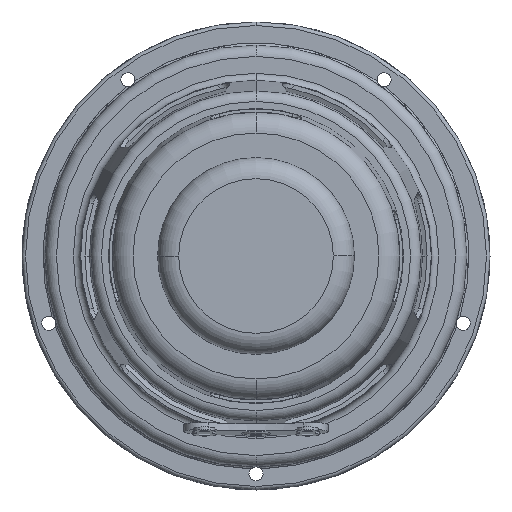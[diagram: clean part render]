
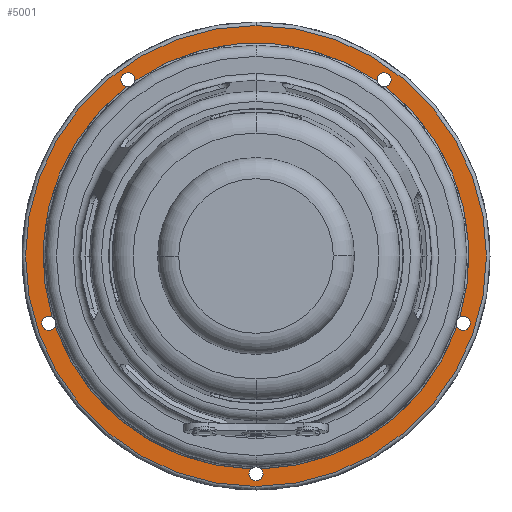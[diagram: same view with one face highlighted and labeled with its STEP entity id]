
A CAD part, front view. The second image highlights one B-rep face of the part: STEP entity #5001.
In plain terms, the highlighted planar face has unit normal (0, -1, 0).
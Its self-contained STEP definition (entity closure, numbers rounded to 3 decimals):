
#1197=CARTESIAN_POINT('',(31.,18.9,31.));
#1198=DIRECTION('',(0.,1.,0.));
#1199=DIRECTION('',(0.944,0.,-0.331));
#1200=AXIS2_PLACEMENT_3D('',#1197,#1198,#1199);
#1220=CARTESIAN_POINT('',(31.,18.9,31.));
#1221=DIRECTION('',(0.,1.,0.));
#1222=DIRECTION('',(0.606,0.,0.795));
#1223=AXIS2_PLACEMENT_3D('',#1220,#1221,#1222);
#1243=CARTESIAN_POINT('',(31.,18.9,31.));
#1244=DIRECTION('',(0.,1.,0.));
#1245=DIRECTION('',(-0.569,0.,0.822));
#1246=AXIS2_PLACEMENT_3D('',#1243,#1244,#1245);
#1509=CARTESIAN_POINT('',(1.517,18.9,21.42));
#1510=DIRECTION('',(0.,1.,0.));
#1511=DIRECTION('',(-0.951,0.,-0.309));
#1512=AXIS2_PLACEMENT_3D('',#1509,#1510,#1511);
#1514=CARTESIAN_POINT('',(1.517,18.9,21.42));
#1515=DIRECTION('',(0.,1.,0.));
#1516=DIRECTION('',(0.892,0.,-0.453));
#1517=AXIS2_PLACEMENT_3D('',#1514,#1515,#1516);
#1519=CARTESIAN_POINT('',(31.,18.9,0.));
#1520=DIRECTION('',(0.,1.,0.));
#1521=DIRECTION('',(0.,0.,-1.));
#1522=AXIS2_PLACEMENT_3D('',#1519,#1520,#1521);
#1524=CARTESIAN_POINT('',(31.,18.9,0.));
#1525=DIRECTION('',(0.,1.,0.));
#1526=DIRECTION('',(0.706,0.,0.708));
#1527=AXIS2_PLACEMENT_3D('',#1524,#1525,#1526);
#1529=CARTESIAN_POINT('',(60.483,18.9,21.42));
#1530=DIRECTION('',(0.,1.,0.));
#1531=DIRECTION('',(0.951,0.,-0.309));
#1532=AXIS2_PLACEMENT_3D('',#1529,#1530,#1531);
#1534=CARTESIAN_POINT('',(60.483,18.9,21.42));
#1535=DIRECTION('',(0.,1.,0.));
#1536=DIRECTION('',(-0.455,0.,0.89));
#1537=AXIS2_PLACEMENT_3D('',#1534,#1535,#1536);
#1539=CARTESIAN_POINT('',(49.221,18.9,56.08));
#1540=DIRECTION('',(0.,1.,0.));
#1541=DIRECTION('',(0.588,0.,0.809));
#1542=AXIS2_PLACEMENT_3D('',#1539,#1540,#1541);
#1544=CARTESIAN_POINT('',(49.221,18.9,56.08));
#1545=DIRECTION('',(0.,1.,0.));
#1546=DIRECTION('',(-0.987,0.,-0.158));
#1547=AXIS2_PLACEMENT_3D('',#1544,#1545,#1546);
#1549=CARTESIAN_POINT('',(12.779,18.9,56.08));
#1550=DIRECTION('',(0.,1.,0.));
#1551=DIRECTION('',(-0.588,0.,0.809));
#1552=AXIS2_PLACEMENT_3D('',#1549,#1550,#1551);
#1554=CARTESIAN_POINT('',(12.779,18.9,56.08));
#1555=DIRECTION('',(0.,1.,0.));
#1556=DIRECTION('',(-0.155,0.,-0.988));
#1557=AXIS2_PLACEMENT_3D('',#1554,#1555,#1556);
#1559=CARTESIAN_POINT('',(31.,18.9,31.));
#1560=DIRECTION('',(0.,-1.,0.));
#1561=DIRECTION('',(0.,0.,1.));
#1562=AXIS2_PLACEMENT_3D('',#1559,#1560,#1561);
#1564=CARTESIAN_POINT('',(31.,18.9,31.));
#1565=DIRECTION('',(0.,-1.,0.));
#1566=DIRECTION('',(0.,0.,-1.));
#1567=AXIS2_PLACEMENT_3D('',#1564,#1565,#1566);
#1578=CARTESIAN_POINT('',(31.,18.9,31.));
#1579=DIRECTION('',(0.,-1.,0.));
#1580=DIRECTION('',(-0.606,0.,0.795));
#1581=AXIS2_PLACEMENT_3D('',#1578,#1579,#1580);
#1610=CARTESIAN_POINT('',(31.,18.9,31.));
#1611=DIRECTION('',(0.,-1.,0.));
#1612=DIRECTION('',(-0.944,0.,-0.331));
#1613=AXIS2_PLACEMENT_3D('',#1610,#1611,#1612);
#2855=CARTESIAN_POINT('',(31.,18.9,-1.));
#2857=VERTEX_POINT('',#2855);
#2863=CARTESIAN_POINT('',(61.434,18.9,21.111));
#2865=VERTEX_POINT('',#2863);
#2871=CARTESIAN_POINT('',(49.809,18.9,56.889));
#2873=VERTEX_POINT('',#2871);
#2879=CARTESIAN_POINT('',(12.191,18.9,56.889));
#2881=VERTEX_POINT('',#2879);
#2887=CARTESIAN_POINT('',(0.566,18.9,21.111));
#2889=VERTEX_POINT('',#2887);
#3002=CARTESIAN_POINT('',(30.294,18.9,0.708));
#3003=VERTEX_POINT('',#3002);
#3004=CARTESIAN_POINT('',(31.706,18.9,0.708));
#3005=VERTEX_POINT('',#3004);
#3010=CARTESIAN_POINT('',(59.591,18.9,20.968));
#3011=VERTEX_POINT('',#3010);
#3012=CARTESIAN_POINT('',(60.027,18.9,22.311));
#3013=VERTEX_POINT('',#3012);
#3018=CARTESIAN_POINT('',(49.376,18.9,55.092));
#3019=VERTEX_POINT('',#3018);
#3020=CARTESIAN_POINT('',(48.234,18.9,55.922));
#3021=VERTEX_POINT('',#3020);
#3026=CARTESIAN_POINT('',(13.766,18.9,55.922));
#3027=VERTEX_POINT('',#3026);
#3028=CARTESIAN_POINT('',(12.624,18.9,55.092));
#3029=VERTEX_POINT('',#3028);
#3034=CARTESIAN_POINT('',(1.973,18.9,22.311));
#3035=VERTEX_POINT('',#3034);
#3036=CARTESIAN_POINT('',(2.409,18.9,20.968));
#3037=VERTEX_POINT('',#3036);
#3050=CARTESIAN_POINT('',(31.,18.9,63.8));
#3051=CARTESIAN_POINT('',(31.,18.9,-1.8));
#3052=VERTEX_POINT('',#3050);
#3053=VERTEX_POINT('',#3051);
#4969=CARTESIAN_POINT('',(31.,18.9,31.));
#4970=DIRECTION('',(0.,-1.,0.));
#4971=DIRECTION('',(0.,0.,1.));
#4972=AXIS2_PLACEMENT_3D('',#4969,#4970,#4971);
#4973=PLANE('',#4972);
#4975=ORIENTED_EDGE('',*,*,#4974,.F.);
#4977=ORIENTED_EDGE('',*,*,#4976,.F.);
#4978=EDGE_LOOP('',(#4975,#4977));
#4979=FACE_OUTER_BOUND('',#4978,.F.);
#4980=ORIENTED_EDGE('',*,*,#4785,.F.);
#4981=ORIENTED_EDGE('',*,*,#4816,.F.);
#4983=ORIENTED_EDGE('',*,*,#4982,.T.);
#4984=ORIENTED_EDGE('',*,*,#4860,.F.);
#4985=ORIENTED_EDGE('',*,*,#4889,.F.);
#4986=ORIENTED_EDGE('',*,*,#4606,.F.);
#4987=ORIENTED_EDGE('',*,*,#4653,.F.);
#4988=ORIENTED_EDGE('',*,*,#4684,.F.);
#4989=ORIENTED_EDGE('',*,*,#4621,.F.);
#4990=ORIENTED_EDGE('',*,*,#4930,.F.);
#4991=ORIENTED_EDGE('',*,*,#4957,.F.);
#4992=ORIENTED_EDGE('',*,*,#4639,.F.);
#4994=ORIENTED_EDGE('',*,*,#4993,.F.);
#4996=ORIENTED_EDGE('',*,*,#4995,.F.);
#4998=ORIENTED_EDGE('',*,*,#4997,.T.);
#4999=EDGE_LOOP('',(#4980,#4981,#4983,#4984,#4985,#4986,#4987,#4988,#4989,#4990,
#4991,#4992,#4994,#4996,#4998));
#5000=FACE_BOUND('',#4999,.F.);
#5001=ADVANCED_FACE('',(#4979,#5000),#4973,.T.);
#1201=CIRCLE('',#1200,30.3);
#1224=CIRCLE('',#1223,30.3);
#1247=CIRCLE('',#1246,30.3);
#1513=CIRCLE('',#1512,1.);
#1518=CIRCLE('',#1517,1.);
#1523=CIRCLE('',#1522,1.);
#1528=CIRCLE('',#1527,1.);
#1533=CIRCLE('',#1532,1.);
#1538=CIRCLE('',#1537,1.);
#1543=CIRCLE('',#1542,1.);
#1548=CIRCLE('',#1547,1.);
#1553=CIRCLE('',#1552,1.);
#1558=CIRCLE('',#1557,1.);
#1563=CIRCLE('',#1562,32.8);
#1568=CIRCLE('',#1567,32.8);
#1582=CIRCLE('',#1581,30.3);
#1614=CIRCLE('',#1613,30.3);
#4606=EDGE_CURVE('',#3011,#3005,#1201,.T.);
#4621=EDGE_CURVE('',#3019,#3013,#1224,.T.);
#4639=EDGE_CURVE('',#3027,#3021,#1247,.T.);
#4653=EDGE_CURVE('',#2865,#3011,#1533,.T.);
#4684=EDGE_CURVE('',#3013,#2865,#1538,.T.);
#4785=EDGE_CURVE('',#2889,#3035,#1513,.T.);
#4816=EDGE_CURVE('',#3037,#2889,#1518,.T.);
#4860=EDGE_CURVE('',#2857,#3003,#1523,.T.);
#4889=EDGE_CURVE('',#3005,#2857,#1528,.T.);
#4930=EDGE_CURVE('',#2873,#3019,#1543,.T.);
#4957=EDGE_CURVE('',#3021,#2873,#1548,.T.);
#4974=EDGE_CURVE('',#3052,#3053,#1563,.T.);
#4976=EDGE_CURVE('',#3053,#3052,#1568,.T.);
#4982=EDGE_CURVE('',#3037,#3003,#1614,.T.);
#4993=EDGE_CURVE('',#2881,#3027,#1553,.T.);
#4995=EDGE_CURVE('',#3029,#2881,#1558,.T.);
#4997=EDGE_CURVE('',#3029,#3035,#1582,.T.);
